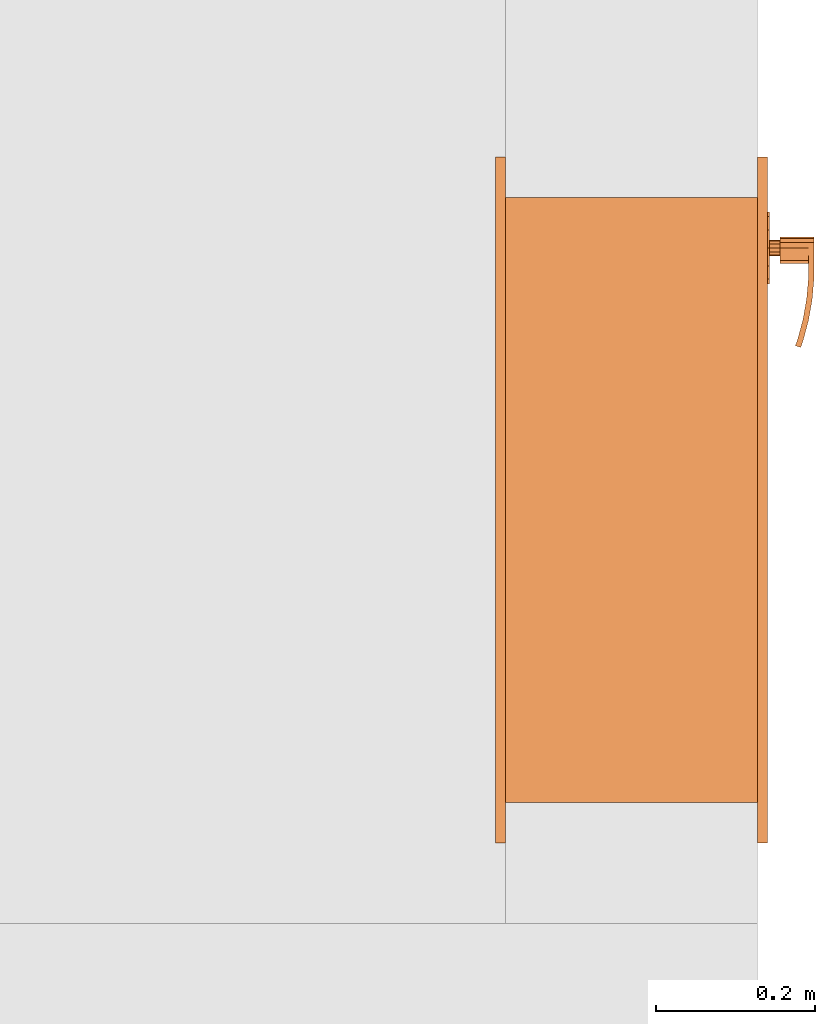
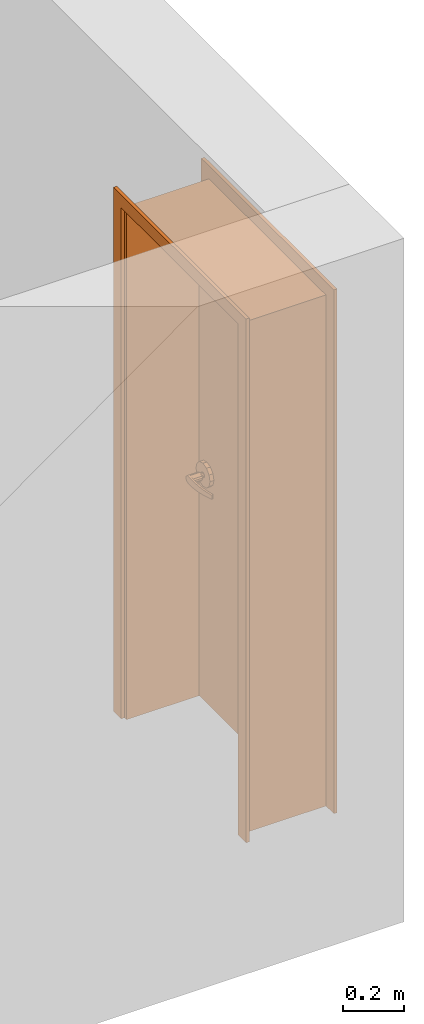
# One storey, part 47 of 48: 1 proxy.
"""IFC2X3 building model written with IfcOpenShell, lengths in inches."""

from ifc_helpers import new_model, entity, si_unit, converted_unit, derived_unit, money_unit, direction, frame, origin_with_axes, place, context, subcontext, project, spatial, open_shell, faceted_brep, surface_model, type_object, element, save


model = new_model("IFC2X3")

# Units and contexts
model_context = context("Model", 3, precision=0.00039370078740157, world=origin_with_axes(), true_north=direction((0.0, 1.0)))
plan_context = context("Plan", 3, precision=0.00039370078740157, world=origin_with_axes(), true_north=direction((0.0, 1.0)))
body_context = subcontext(model_context, "Body", "Model", "MODEL_VIEW")
ifc_project = project(units=[converted_unit("LENGTHUNIT", "INCH", entity("IfcPositiveLengthMeasure", 0.0254), si_unit("LENGTHUNIT", "METRE"), dimensions=[1, 0, 0, 0, 0, 0, 0]), converted_unit("AREAUNIT", "SQUARE_FOOT", entity("IfcPositiveLengthMeasure", 0.09290304), si_unit("AREAUNIT", "SQUARE_METRE"), dimensions=[2, 0, 0, 0, 0, 0, 0]), si_unit("PLANEANGLEUNIT", "RADIAN"), si_unit("SOLIDANGLEUNIT", "STERADIAN"), money_unit("USD"), converted_unit("TIMEUNIT", "Year", entity("IfcTimeMeasure", 31557600.0), si_unit("TIMEUNIT", "SECOND"), dimensions=[0, 0, 1, 0, 0, 0, 0]), si_unit("MASSUNIT", "GRAM", prefix="KILO"), si_unit("THERMODYNAMICTEMPERATUREUNIT", "DEGREE_CELSIUS"), si_unit("LUMINOUSINTENSITYUNIT", "LUMEN"), si_unit("ENERGYUNIT", "JOULE", prefix="MEGA"), derived_unit("SPECIFICHEATCAPACITYUNIT", [(si_unit("ENERGYUNIT", "JOULE"), 1), (si_unit("MASSUNIT", "GRAM", prefix="KILO"), -1), (si_unit("THERMODYNAMICTEMPERATUREUNIT", "KELVIN"), -1)])], contexts=[model_context, plan_context])

# Site, building, storey
site_placement = place(None, origin_with_axes())
site = spatial("IfcSite", under=ifc_project, at=site_placement, Name="Site", CompositionType="ELEMENT")
building_placement = place(site_placement, origin_with_axes())
building = spatial("IfcBuilding", under=site, at=building_placement, Name="Building", CompositionType="ELEMENT")
storey_placement = place(building_placement, origin_with_axes())
storey = spatial("IfcBuildingStorey", under=building, at=storey_placement, Name="First Floor", CompositionType="ELEMENT", Elevation=0.0)

# Proxy
building_element_proxy_type = type_object("IfcBuildingElementProxyType", Name="D1", PredefinedType="NOTDEFINED")
proxy_placement = place(storey_placement, frame((415.4999999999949, 50.00000000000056, 0.0), z_axis=(0.0, 0.0, 1.0), x_axis=(0.0, -1.0, 0.0)))
element("IfcBuildingElementProxy", 1, at=proxy_placement, inside=storey, type_object=building_element_proxy_type, Name="D-05", context=body_context, shape_type="SurfaceModel", body=[
    faceted_brep([(0.0, 7.99999999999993, 0.0), (0.4999999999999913, 7.99999999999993, 0.0), (0.4999999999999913, 0.0, 0.0), (0.0, 0.0, 0.0), (0.0, 7.99999999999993, 79.99999999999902), (0.4999999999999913, 7.99999999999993, 79.49999999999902), (0.4999999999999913, 0.0, 79.49999999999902), (0.0, 0.0, 79.99999999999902)], [[[0, 1, 2, 3]], [[0, 4, 5, 1]], [[1, 5, 6, 2]], [[3, 2, 6, 7]], [[4, 0, 3, 7]], [[5, 4, 7, 6]]]),
    faceted_brep([(29.99999999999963, 7.99999999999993, 79.99999999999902), (29.49999999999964, 7.99999999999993, 79.49999999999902), (29.49999999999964, 0.0, 79.49999999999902), (29.99999999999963, 0.0, 79.99999999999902), (29.99999999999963, 7.99999999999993, 0.0), (29.49999999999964, 7.99999999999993, 0.0), (29.49999999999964, 0.0, 0.0), (29.99999999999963, 0.0, 0.0)], [[[0, 1, 2, 3]], [[0, 4, 5, 1]], [[1, 5, 6, 2]], [[3, 2, 6, 7]], [[4, 0, 3, 7]], [[5, 4, 7, 6]]]),
    faceted_brep([(0.4999999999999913, 7.99999999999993, 79.49999999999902), (29.49999999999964, 7.99999999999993, 79.49999999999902), (29.49999999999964, 0.0, 79.49999999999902), (0.4999999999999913, 0.0, 79.49999999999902), (0.0, 7.99999999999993, 79.99999999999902), (29.99999999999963, 7.99999999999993, 79.99999999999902), (29.99999999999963, 0.0, 79.99999999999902), (0.0, 0.0, 79.99999999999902)], [[[0, 1, 2, 3]], [[0, 4, 5, 1]], [[1, 5, 6, 2]], [[3, 2, 6, 7]], [[4, 0, 3, 7]], [[5, 4, 7, 6]]]),
    faceted_brep([(-1.999999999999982, -0.4999999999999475, 0.0), (-1.999999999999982, 0.0, 0.0), (0.0, 0.0, 0.0), (0.0, -0.4999999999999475, 0.0), (-1.999999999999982, -0.4999999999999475, 81.999999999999), (-1.999999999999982, 0.0, 81.999999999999), (0.0, 0.0, 79.99999999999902), (0.0, -0.4999999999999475, 79.99999999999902)], [[[0, 1, 2, 3]], [[4, 5, 1, 0]], [[1, 5, 6, 2]], [[3, 2, 6, 7]], [[0, 3, 7, 4]], [[7, 6, 5, 4]]]),
    faceted_brep([(31.99999999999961, -0.4999999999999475, 81.999999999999), (31.99999999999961, 0.0, 81.999999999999), (29.99999999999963, 0.0, 79.99999999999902), (29.99999999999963, -0.4999999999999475, 79.99999999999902), (31.99999999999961, -0.4999999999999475, 0.0), (31.99999999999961, 0.0, 0.0), (29.99999999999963, 0.0, 0.0), (29.99999999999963, -0.4999999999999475, 0.0)], [[[0, 1, 2, 3]], [[4, 5, 1, 0]], [[1, 5, 6, 2]], [[3, 2, 6, 7]], [[0, 3, 7, 4]], [[7, 6, 5, 4]]]),
    faceted_brep([(-1.999999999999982, -0.4999999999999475, 81.999999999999), (-1.999999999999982, 0.0, 81.999999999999), (0.0, 0.0, 79.99999999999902), (0.0, -0.4999999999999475, 79.99999999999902), (31.99999999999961, -0.4999999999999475, 81.999999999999), (31.99999999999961, 0.0, 81.999999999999), (29.99999999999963, 0.0, 79.99999999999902), (29.99999999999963, -0.4999999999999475, 79.99999999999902)], [[[0, 1, 2, 3]], [[4, 5, 1, 0]], [[1, 5, 6, 2]], [[3, 2, 6, 7]], [[0, 3, 7, 4]], [[7, 6, 5, 4]]]),
    faceted_brep([(-1.999999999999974, 12.9999999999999, 0.0), (0.0, 12.9999999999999, 0.0), (0.0, 12.49999999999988, 0.0), (-1.999999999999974, 12.49999999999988, 0.0), (-1.999999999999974, 12.99999999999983, 81.999999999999), (0.0, 12.99999999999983, 79.99999999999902), (0.0, 12.49999999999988, 79.99999999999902), (-1.999999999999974, 12.49999999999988, 81.999999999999)], [[[0, 1, 2, 3]], [[0, 4, 5, 1]], [[1, 5, 6, 2]], [[3, 2, 6, 7]], [[4, 0, 3, 7]], [[5, 4, 7, 6]]]),
    faceted_brep([(31.99999999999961, 12.99999999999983, 81.999999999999), (29.99999999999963, 12.99999999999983, 79.99999999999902), (29.99999999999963, 12.49999999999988, 79.99999999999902), (31.99999999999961, 12.49999999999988, 81.999999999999), (31.99999999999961, 12.9999999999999, 0.0), (29.99999999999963, 12.9999999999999, 0.0), (29.99999999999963, 12.49999999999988, 0.0), (31.99999999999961, 12.49999999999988, 0.0)], [[[0, 1, 2, 3]], [[0, 4, 5, 1]], [[1, 5, 6, 2]], [[3, 2, 6, 7]], [[4, 0, 3, 7]], [[5, 4, 7, 6]]]),
    faceted_brep([(-1.999999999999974, 12.99999999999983, 81.999999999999), (0.0, 12.99999999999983, 79.99999999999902), (0.0, 12.49999999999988, 79.99999999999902), (-1.999999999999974, 12.49999999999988, 81.999999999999), (31.99999999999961, 12.99999999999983, 81.999999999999), (29.99999999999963, 12.99999999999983, 79.99999999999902), (29.99999999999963, 12.49999999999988, 79.99999999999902), (31.99999999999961, 12.49999999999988, 81.999999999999)], [[[0, 1, 2, 3]], [[0, 4, 5, 1]], [[1, 5, 6, 2]], [[3, 2, 6, 7]], [[4, 0, 3, 7]], [[5, 4, 7, 6]]]),
    faceted_brep([(0.0, 12.49999999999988, 0.0), (0.4999999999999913, 12.49999999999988, 0.0), (0.4999999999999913, 7.99999999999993, 0.0), (0.0, 7.99999999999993, 0.0), (0.0, 12.49999999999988, 79.49999999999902), (0.4999999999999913, 12.49999999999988, 79.49999999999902), (0.4999999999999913, 7.99999999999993, 79.49999999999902), (0.0, 7.99999999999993, 79.49999999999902)], [[[0, 1, 2, 3]], [[0, 4, 5, 1]], [[1, 5, 6, 2]], [[3, 2, 6, 7]], [[4, 0, 3, 7]], [[5, 4, 7, 6]]]),
    faceted_brep([(29.99999999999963, 12.49999999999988, 0.0), (29.99999999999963, 12.49999999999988, 79.49999999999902), (29.99999999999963, 7.99999999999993, 79.49999999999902), (29.99999999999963, 7.99999999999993, 0.0), (29.49999999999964, 12.49999999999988, 0.0), (29.49999999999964, 12.49999999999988, 79.49999999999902), (29.49999999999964, 7.99999999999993, 79.49999999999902), (29.49999999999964, 7.99999999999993, 0.0)], [[[0, 1, 2, 3]], [[0, 4, 5, 1]], [[1, 5, 6, 2]], [[3, 2, 6, 7]], [[4, 0, 3, 7]], [[5, 4, 7, 6]]]),
    faceted_brep([(0.0, 12.49999999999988, 79.99999999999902), (0.0, 12.49999999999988, 79.49999999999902), (0.0, 7.99999999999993, 79.49999999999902), (0.0, 7.99999999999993, 79.99999999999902), (29.99999999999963, 12.49999999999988, 79.99999999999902), (29.99999999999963, 12.49999999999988, 79.49999999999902), (29.49999999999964, 12.49999999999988, 79.49999999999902), (0.4999999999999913, 12.49999999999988, 79.49999999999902), (0.4999999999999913, 7.99999999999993, 79.49999999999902), (29.49999999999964, 7.99999999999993, 79.49999999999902), (29.99999999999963, 7.99999999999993, 79.49999999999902), (29.99999999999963, 7.99999999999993, 79.99999999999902)], [[[0, 1, 2, 3]], [[0, 4, 5, 6, 7, 1]], [[1, 7, 8, 2]], [[3, 2, 8, 9, 10, 11]], [[4, 0, 3, 11]], [[5, 4, 11, 10]], [[6, 5, 10, 9]], [[7, 6, 9, 8]]]),
    surface_model("IfcShellBasedSurfaceModel", [(4.051344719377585, 10.15944881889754, 36.89566929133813), (4.291338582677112, 10.15944881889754, 35.99999999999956), (4.291338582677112, 10.16338582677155, 35.99999999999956), (4.051344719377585, 10.16338582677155, 36.89566929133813), (3.395669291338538, 10.15944881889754, 37.55134471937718), (2.499999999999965, 10.15944881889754, 37.7913385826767), (1.6043307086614, 10.15944881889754, 37.55134471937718), (0.9486552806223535, 10.15944881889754, 36.89566929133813), (0.7086614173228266, 10.15944881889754, 35.99999999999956), (0.9486552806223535, 10.15944881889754, 35.10433070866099), (1.6043307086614, 10.15944881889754, 34.44865528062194), (2.499999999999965, 10.15944881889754, 34.20866141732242), (3.395669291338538, 10.15944881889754, 34.44865528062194), (4.051344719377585, 10.15944881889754, 35.10433070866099), (4.051344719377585, 10.16338582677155, 35.10433070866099), (4.291338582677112, 10.74606299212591, 35.99999999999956), (4.051344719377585, 10.74606299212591, 36.89566929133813), (3.395669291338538, 10.16338582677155, 37.55134471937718), (2.499999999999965, 10.16338582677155, 37.7913385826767), (1.6043307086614, 10.16338582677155, 37.55134471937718), (0.9486552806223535, 10.16338582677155, 36.89566929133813), (0.7086614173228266, 10.16338582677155, 35.99999999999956), (0.9486552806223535, 10.16338582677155, 35.10433070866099), (1.6043307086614, 10.16338582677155, 34.44865528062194), (2.499999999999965, 10.16338582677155, 34.20866141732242), (3.395669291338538, 10.16338582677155, 34.44865528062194), (4.051344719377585, 10.74606299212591, 35.10433070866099), (4.291338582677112, 10.74999999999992, 35.99999999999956), (4.051344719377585, 10.74999999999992, 36.89566929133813), (3.395669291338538, 10.74606299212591, 37.55134471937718), (2.499999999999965, 10.74606299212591, 37.7913385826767), (1.6043307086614, 10.74606299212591, 37.55134471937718), (0.9486552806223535, 10.74606299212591, 36.89566929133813), (0.7086614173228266, 10.74606299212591, 35.99999999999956), (0.9486552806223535, 10.74606299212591, 35.10433070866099), (1.6043307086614, 10.74606299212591, 34.44865528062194), (2.499999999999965, 10.74606299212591, 34.20866141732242), (3.395669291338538, 10.74606299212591, 34.44865528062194), (4.051344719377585, 10.74999999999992, 35.10433070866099), (3.395669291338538, 10.74999999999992, 37.55134471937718), (2.499999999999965, 10.74999999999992, 37.7913385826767), (1.6043307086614, 10.74999999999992, 37.55134471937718), (0.9486552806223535, 10.74999999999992, 36.89566929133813), (0.7086614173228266, 10.74999999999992, 35.99999999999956), (0.9486552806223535, 10.74999999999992, 35.10433070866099), (1.6043307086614, 10.74999999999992, 34.44865528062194), (2.499999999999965, 10.74999999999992, 34.20866141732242), (3.395669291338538, 10.74999999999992, 34.44865528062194)], [open_shell([[[0, 1, 2, 3]], [[1, 0, 4, 5, 6, 7, 8, 9, 10, 11, 12, 13]], [[1, 13, 14, 2]], [[3, 2, 15, 16]], [[4, 0, 3, 17]], [[5, 4, 17, 18]], [[6, 5, 18, 19]], [[7, 6, 19, 20]], [[8, 7, 20, 21]], [[9, 8, 21, 22]], [[10, 9, 22, 23]], [[11, 10, 23, 24]], [[12, 11, 24, 25]], [[13, 12, 25, 14]], [[2, 14, 26, 15]], [[16, 15, 27, 28]], [[17, 3, 16, 29]], [[18, 17, 29, 30]], [[19, 18, 30, 31]], [[20, 19, 31, 32]], [[21, 20, 32, 33]], [[22, 21, 33, 34]], [[23, 22, 34, 35]], [[24, 23, 35, 36]], [[25, 24, 36, 37]], [[14, 25, 37, 26]], [[15, 26, 38, 27]], [[29, 16, 28, 39]], [[30, 29, 39, 40]], [[31, 30, 40, 41]], [[32, 31, 41, 42]], [[33, 32, 42, 43]], [[34, 33, 43, 44]], [[35, 34, 44, 45]], [[36, 35, 45, 46]], [[37, 36, 46, 47]], [[26, 37, 47, 38]]])]),
    faceted_brep([(2.303149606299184, 10.15944881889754, 35.65904511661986), (2.159045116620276, 10.15944881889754, 35.80314960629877), (2.106299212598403, 10.15944881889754, 35.99999999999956), (2.159045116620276, 10.15944881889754, 36.19685039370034), (2.303149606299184, 10.15944881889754, 36.34095488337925), (2.499999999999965, 10.15944881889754, 36.39370078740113), (2.696850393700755, 10.15944881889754, 36.34095488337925), (2.840954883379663, 10.15944881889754, 36.19685039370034), (2.893700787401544, 10.15944881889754, 35.99999999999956), (2.840954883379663, 10.15944881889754, 35.80314960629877), (2.696850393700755, 10.15944881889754, 35.65904511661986), (2.499999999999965, 10.15944881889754, 35.60629921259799), (2.303149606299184, 9.647637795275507, 35.65904511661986), (2.159045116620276, 9.647637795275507, 35.80314960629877), (2.106299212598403, 9.647637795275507, 35.99999999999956), (2.159045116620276, 9.647637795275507, 36.19685039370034), (2.303149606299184, 9.647637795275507, 36.34095488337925), (2.499999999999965, 9.647637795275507, 36.39370078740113), (2.696850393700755, 9.647637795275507, 36.34095488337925), (2.840954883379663, 9.647637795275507, 36.19685039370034), (2.893700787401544, 9.647637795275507, 35.99999999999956), (2.840954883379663, 9.647637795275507, 35.80314960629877), (2.696850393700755, 9.647637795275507, 35.65904511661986), (2.499999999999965, 9.647637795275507, 35.60629921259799)], [[[0, 1, 2, 3, 4, 5, 6, 7, 8, 9, 10, 11]], [[1, 0, 12, 13]], [[2, 1, 13, 14]], [[3, 2, 14, 15]], [[4, 3, 15, 16]], [[5, 4, 16, 17]], [[6, 5, 17, 18]], [[7, 6, 18, 19]], [[8, 7, 19, 20]], [[9, 8, 20, 21]], [[10, 9, 21, 22]], [[11, 10, 22, 23]], [[0, 11, 23, 12]], [[12, 23, 22, 21, 20, 19, 18, 17, 16, 15, 14, 13]]]),
    faceted_brep([(2.499999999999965, 9.647637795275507, 36.55118110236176), (2.22440944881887, 9.647637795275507, 36.47733683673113), (2.22440944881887, 8.23031496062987, 36.47733683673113), (2.499999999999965, 8.23031496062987, 36.55118110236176), (2.893700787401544, 9.647637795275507, 36.47244094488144), (3.126478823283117, 9.647637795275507, 36.35358914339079), (3.262948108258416, 9.647637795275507, 36.13068221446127), (3.262948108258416, 9.647637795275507, 35.86931778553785), (3.126478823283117, 9.647637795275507, 35.64641085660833), (2.893700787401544, 9.647637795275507, 35.52755905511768), (2.499999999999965, 9.647637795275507, 35.44881889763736), (2.22440944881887, 9.647637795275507, 35.52266316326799), (2.022663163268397, 9.647637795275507, 35.72440944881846), (1.948818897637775, 9.647637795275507, 35.99999999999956), (2.022663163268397, 9.647637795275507, 36.27559055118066), (2.022663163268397, 8.23031496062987, 36.27559055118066), (1.948818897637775, 8.23031496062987, 35.99999999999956), (2.022663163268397, 8.23031496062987, 35.72440944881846), (2.22440944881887, 8.23031496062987, 35.52266316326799), (2.499999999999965, 8.23031496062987, 35.44881889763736), (2.893700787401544, 8.23031496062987, 35.52755905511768), (3.126478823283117, 8.23031496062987, 35.64641085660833), (3.262948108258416, 8.23031496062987, 35.86931778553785), (3.262948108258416, 8.23031496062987, 36.13068221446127), (3.126478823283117, 8.23031496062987, 36.35358914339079), (2.893700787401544, 8.23031496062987, 36.47244094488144)], [[[0, 1, 2, 3]], [[0, 4, 5, 6, 7, 8, 9, 10, 11, 12, 13, 14, 1]], [[1, 14, 15, 2]], [[3, 2, 15, 16, 17, 18, 19, 20, 21, 22, 23, 24, 25]], [[4, 0, 3, 25]], [[5, 4, 25, 24]], [[6, 5, 24, 23]], [[7, 6, 23, 22]], [[8, 7, 22, 21]], [[9, 8, 21, 20]], [[10, 9, 20, 19]], [[11, 10, 19, 18]], [[12, 11, 18, 17]], [[13, 12, 17, 16]], [[14, 13, 16, 15]]]),
    surface_model("IfcShellBasedSurfaceModel", [(2.499999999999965, 8.23031496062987, 36.55118110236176), (2.22440944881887, 8.23031496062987, 36.47733683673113), (2.22440944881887, 7.954724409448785, 36.47733683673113), (2.499999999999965, 7.954724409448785, 36.55118110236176), (3.484251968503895, 8.23031496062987, 36.55118110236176), (3.484251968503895, 8.23031496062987, 35.44881889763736), (2.499999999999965, 8.23031496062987, 35.44881889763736), (2.22440944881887, 8.23031496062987, 35.52266316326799), (2.022663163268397, 8.23031496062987, 35.72440944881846), (1.948818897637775, 8.23031496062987, 35.99999999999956), (2.022663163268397, 8.23031496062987, 36.27559055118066), (2.022663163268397, 7.954724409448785, 36.27559055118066), (1.948818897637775, 7.954724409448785, 35.99999999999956), (2.022663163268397, 7.954724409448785, 35.72440944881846), (2.22440944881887, 7.954724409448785, 35.52266316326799), (2.499999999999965, 7.954724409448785, 35.44881889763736), (3.484251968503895, 7.954724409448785, 35.44881889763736), (3.484251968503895, 7.954724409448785, 36.55118110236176)], [open_shell([[[0, 1, 2, 3]], [[0, 4, 5, 6, 7, 8, 9, 10, 1]], [[1, 10, 11, 2]], [[3, 2, 11, 12, 13, 14, 15, 16, 17]], [[4, 0, 3, 17]], [[6, 5, 16, 15]], [[7, 6, 15, 14]], [[8, 7, 14, 13]], [[9, 8, 13, 12]], [[10, 9, 12, 11]]])]),
    surface_model("IfcShellBasedSurfaceModel", [(3.484251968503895, 8.23031496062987, 35.44881889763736), (3.999932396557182, 8.23031496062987, 35.47974008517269), (4.011964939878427, 7.954724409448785, 35.47974008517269), (3.484251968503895, 8.23031496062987, 36.55118110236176), (3.999932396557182, 8.23031496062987, 36.52025991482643), (5.063374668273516, 8.046710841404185, 35.54158246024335), (3.484251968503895, 7.954724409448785, 35.44881889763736), (3.484251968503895, 7.954724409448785, 36.55118110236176), (5.027368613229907, 8.320203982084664, 36.45841753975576), (5.027368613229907, 8.320203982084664, 35.54158246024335), (5.063374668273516, 8.046710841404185, 36.45841753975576), (4.011964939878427, 7.954724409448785, 36.52025991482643), (6.043060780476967, 8.499297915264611, 36.3965751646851), (6.043060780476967, 8.499297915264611, 35.60342483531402), (6.102766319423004, 8.22998363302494, 35.60342483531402), (6.102766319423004, 8.22998363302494, 36.3965751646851), (7.039278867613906, 8.766233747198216, 36.33473278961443), (7.039278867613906, 8.766233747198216, 35.66526721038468), (7.122229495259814, 8.50314796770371, 35.66526721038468), (7.122229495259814, 8.50314796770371, 36.33473278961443), (7.349234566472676, 8.87904839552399, 36.31496062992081), (7.349234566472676, 8.87904839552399, 35.6850393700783), (7.439417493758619, 8.61859495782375, 35.6850393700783), (7.439417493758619, 8.61859495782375, 36.31496062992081)], [open_shell([[[0, 1, 2]], [[0, 3, 4, 1]], [[1, 5, 2]], [[0, 2, 6]], [[4, 3, 7]], [[1, 4, 8, 9]], [[1, 9, 5]], [[2, 5, 10, 11]], [[6, 2, 11, 7]], [[4, 7, 11]], [[8, 4, 11]], [[9, 8, 12, 13]], [[9, 14, 5]], [[5, 14, 15, 10]], [[8, 11, 10]], [[12, 8, 10]], [[13, 12, 16, 17]], [[9, 13, 14]], [[14, 18, 19, 15]], [[12, 10, 15]], [[16, 12, 15]], [[17, 16, 20, 21]], [[13, 17, 18]], [[13, 18, 14]], [[18, 22, 23, 19]], [[16, 15, 19]], [[20, 16, 19]], [[21, 20, 23, 22]], [[17, 21, 22]], [[17, 22, 18]], [[20, 19, 23]]])]),
    surface_model("IfcShellBasedSurfaceModel", [(4.051344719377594, 13.09055118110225, 36.89566929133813), (4.051344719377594, 13.08661417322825, 36.89566929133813), (4.291338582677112, 13.08661417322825, 35.99999999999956), (4.291338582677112, 13.09055118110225, 35.99999999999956), (3.395669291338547, 13.09055118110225, 37.55134471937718), (3.395669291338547, 13.08661417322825, 37.55134471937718), (4.051344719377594, 12.50393700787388, 36.89566929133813), (4.291338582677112, 12.50393700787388, 35.99999999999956), (4.051344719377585, 13.08661417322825, 35.10433070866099), (4.051344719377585, 13.09055118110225, 35.10433070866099), (3.395669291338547, 13.09055118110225, 34.44865528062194), (2.499999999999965, 13.09055118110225, 34.20866141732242), (1.6043307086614, 13.09055118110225, 34.44865528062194), (0.9486552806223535, 13.09055118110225, 35.10433070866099), (0.7086614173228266, 13.09055118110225, 35.99999999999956), (0.9486552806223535, 13.09055118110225, 36.89566929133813), (1.6043307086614, 13.09055118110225, 37.55134471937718), (2.499999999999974, 13.09055118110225, 37.7913385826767), (2.499999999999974, 13.08661417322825, 37.7913385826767), (3.395669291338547, 12.50393700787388, 37.55134471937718), (4.051344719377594, 12.49999999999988, 36.89566929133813), (4.291338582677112, 12.49999999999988, 35.99999999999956), (4.051344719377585, 12.50393700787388, 35.10433070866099), (3.395669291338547, 13.08661417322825, 34.44865528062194), (2.499999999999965, 13.08661417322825, 34.20866141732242), (1.6043307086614, 13.08661417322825, 34.44865528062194), (0.9486552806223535, 13.08661417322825, 35.10433070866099), (0.7086614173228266, 13.08661417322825, 35.99999999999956), (0.9486552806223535, 13.08661417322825, 36.89566929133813), (1.6043307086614, 13.08661417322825, 37.55134471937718), (2.499999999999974, 12.50393700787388, 37.7913385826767), (3.395669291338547, 12.49999999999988, 37.55134471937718), (4.051344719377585, 12.49999999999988, 35.10433070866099), (3.395669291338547, 12.50393700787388, 34.44865528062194), (2.499999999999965, 12.50393700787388, 34.20866141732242), (1.6043307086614, 12.50393700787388, 34.44865528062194), (0.9486552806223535, 12.50393700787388, 35.10433070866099), (0.7086614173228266, 12.50393700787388, 35.99999999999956), (0.9486552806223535, 12.50393700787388, 36.89566929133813), (1.6043307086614, 12.50393700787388, 37.55134471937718), (2.499999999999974, 12.49999999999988, 37.7913385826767), (3.395669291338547, 12.49999999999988, 34.44865528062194), (2.499999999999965, 12.49999999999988, 34.20866141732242), (1.6043307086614, 12.49999999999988, 34.44865528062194), (0.9486552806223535, 12.49999999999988, 35.10433070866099), (0.7086614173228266, 12.49999999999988, 35.99999999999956), (0.9486552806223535, 12.49999999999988, 36.89566929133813), (1.6043307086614, 12.49999999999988, 37.55134471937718)], [open_shell([[[0, 1, 2, 3]], [[4, 5, 1, 0]], [[1, 6, 7, 2]], [[3, 2, 8, 9]], [[3, 9, 10, 11, 12, 13, 14, 15, 16, 17, 4, 0]], [[17, 18, 5, 4]], [[5, 19, 6, 1]], [[6, 20, 21, 7]], [[2, 7, 22, 8]], [[9, 8, 23, 10]], [[10, 23, 24, 11]], [[11, 24, 25, 12]], [[12, 25, 26, 13]], [[13, 26, 27, 14]], [[14, 27, 28, 15]], [[15, 28, 29, 16]], [[16, 29, 18, 17]], [[18, 30, 19, 5]], [[19, 31, 20, 6]], [[7, 21, 32, 22]], [[8, 22, 33, 23]], [[23, 33, 34, 24]], [[24, 34, 35, 25]], [[25, 35, 36, 26]], [[26, 36, 37, 27]], [[27, 37, 38, 28]], [[28, 38, 39, 29]], [[29, 39, 30, 18]], [[30, 40, 31, 19]], [[22, 32, 41, 33]], [[33, 41, 42, 34]], [[34, 42, 43, 35]], [[35, 43, 44, 36]], [[36, 44, 45, 37]], [[37, 45, 46, 38]], [[38, 46, 47, 39]], [[39, 47, 40, 30]]])]),
    faceted_brep([(2.303149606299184, 13.09055118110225, 35.65904511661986), (2.499999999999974, 13.09055118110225, 35.60629921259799), (2.696850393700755, 13.09055118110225, 35.65904511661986), (2.840954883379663, 13.09055118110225, 35.80314960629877), (2.893700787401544, 13.09055118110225, 35.99999999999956), (2.840954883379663, 13.09055118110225, 36.19685039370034), (2.696850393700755, 13.09055118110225, 36.34095488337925), (2.499999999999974, 13.09055118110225, 36.39370078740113), (2.303149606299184, 13.09055118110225, 36.34095488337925), (2.159045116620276, 13.09055118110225, 36.19685039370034), (2.106299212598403, 13.09055118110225, 35.99999999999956), (2.159045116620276, 13.09055118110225, 35.80314960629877), (2.303149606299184, 13.60236220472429, 35.65904511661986), (2.499999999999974, 13.60236220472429, 35.60629921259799), (2.696850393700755, 13.60236220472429, 35.65904511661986), (2.840954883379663, 13.60236220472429, 35.80314960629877), (2.893700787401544, 13.60236220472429, 35.99999999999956), (2.840954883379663, 13.60236220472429, 36.19685039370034), (2.696850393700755, 13.60236220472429, 36.34095488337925), (2.499999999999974, 13.60236220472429, 36.39370078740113), (2.303149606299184, 13.60236220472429, 36.34095488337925), (2.159045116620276, 13.60236220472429, 36.19685039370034), (2.106299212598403, 13.60236220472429, 35.99999999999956), (2.159045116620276, 13.60236220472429, 35.80314960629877)], [[[0, 1, 2, 3, 4, 5, 6, 7, 8, 9, 10, 11]], [[0, 12, 13, 1]], [[1, 13, 14, 2]], [[2, 14, 15, 3]], [[3, 15, 16, 4]], [[4, 16, 17, 5]], [[5, 17, 18, 6]], [[6, 18, 19, 7]], [[7, 19, 20, 8]], [[8, 20, 21, 9]], [[9, 21, 22, 10]], [[10, 22, 23, 11]], [[11, 23, 12, 0]], [[12, 23, 22, 21, 20, 19, 18, 17, 16, 15, 14, 13]]]),
    faceted_brep([(2.499999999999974, 13.60236220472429, 36.55118110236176), (2.499999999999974, 15.01968503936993, 36.55118110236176), (2.22440944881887, 15.01968503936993, 36.47733683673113), (2.22440944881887, 13.60236220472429, 36.47733683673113), (2.893700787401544, 13.60236220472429, 36.47244094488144), (2.893700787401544, 15.01968503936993, 36.47244094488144), (3.126478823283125, 15.01968503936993, 36.35358914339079), (3.262948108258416, 15.01968503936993, 36.13068221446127), (3.262948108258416, 15.01968503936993, 35.86931778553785), (3.126478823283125, 15.01968503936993, 35.64641085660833), (2.893700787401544, 15.01968503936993, 35.52755905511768), (2.499999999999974, 15.01968503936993, 35.44881889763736), (2.22440944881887, 15.01968503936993, 35.52266316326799), (2.022663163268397, 15.01968503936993, 35.72440944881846), (1.948818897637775, 15.01968503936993, 35.99999999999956), (2.022663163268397, 15.01968503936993, 36.27559055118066), (2.022663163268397, 13.60236220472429, 36.27559055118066), (1.948818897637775, 13.60236220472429, 35.99999999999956), (2.022663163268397, 13.60236220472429, 35.72440944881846), (2.22440944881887, 13.60236220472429, 35.52266316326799), (2.499999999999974, 13.60236220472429, 35.44881889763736), (2.893700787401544, 13.60236220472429, 35.52755905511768), (3.126478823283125, 13.60236220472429, 35.64641085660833), (3.262948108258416, 13.60236220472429, 35.86931778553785), (3.262948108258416, 13.60236220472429, 36.13068221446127), (3.126478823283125, 13.60236220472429, 36.35358914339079)], [[[0, 1, 2, 3]], [[4, 5, 1, 0]], [[1, 5, 6, 7, 8, 9, 10, 11, 12, 13, 14, 15, 2]], [[3, 2, 15, 16]], [[0, 3, 16, 17, 18, 19, 20, 21, 22, 23, 24, 25, 4]], [[25, 6, 5, 4]], [[24, 7, 6, 25]], [[23, 8, 7, 24]], [[22, 9, 8, 23]], [[21, 10, 9, 22]], [[20, 11, 10, 21]], [[19, 12, 11, 20]], [[18, 13, 12, 19]], [[17, 14, 13, 18]], [[16, 15, 14, 17]]]),
    surface_model("IfcShellBasedSurfaceModel", [(2.499999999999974, 15.01968503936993, 36.55118110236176), (2.499999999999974, 15.29527559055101, 36.55118110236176), (2.22440944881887, 15.29527559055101, 36.47733683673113), (2.22440944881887, 15.01968503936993, 36.47733683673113), (3.484251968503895, 15.01968503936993, 36.55118110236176), (3.484251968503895, 15.29527559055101, 36.55118110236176), (3.484251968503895, 15.29527559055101, 35.44881889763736), (2.499999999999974, 15.29527559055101, 35.44881889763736), (2.22440944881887, 15.29527559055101, 35.52266316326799), (2.022663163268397, 15.29527559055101, 35.72440944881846), (1.948818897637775, 15.29527559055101, 35.99999999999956), (2.022663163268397, 15.29527559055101, 36.27559055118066), (2.022663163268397, 15.01968503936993, 36.27559055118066), (1.948818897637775, 15.01968503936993, 35.99999999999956), (2.022663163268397, 15.01968503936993, 35.72440944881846), (2.22440944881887, 15.01968503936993, 35.52266316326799), (2.499999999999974, 15.01968503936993, 35.44881889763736), (3.484251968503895, 15.01968503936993, 35.44881889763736)], [open_shell([[[0, 1, 2, 3]], [[4, 5, 1, 0]], [[1, 5, 6, 7, 8, 9, 10, 11, 2]], [[3, 2, 11, 12]], [[0, 3, 12, 13, 14, 15, 16, 17, 4]], [[16, 7, 6, 17]], [[15, 8, 7, 16]], [[14, 9, 8, 15]], [[13, 10, 9, 14]], [[12, 11, 10, 13]]])]),
    surface_model("IfcShellBasedSurfaceModel", [(3.484251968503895, 15.01968503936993, 35.44881889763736), (4.011964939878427, 15.29527559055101, 35.47974008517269), (3.999932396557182, 15.01968503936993, 35.47974008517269), (3.484251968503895, 15.29527559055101, 35.44881889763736), (5.063374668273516, 15.20328915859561, 35.54158246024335), (3.999932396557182, 15.01968503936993, 36.52025991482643), (3.484251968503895, 15.01968503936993, 36.55118110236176), (3.484251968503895, 15.29527559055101, 36.55118110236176), (4.011964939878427, 15.29527559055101, 36.52025991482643), (5.063374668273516, 15.20328915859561, 36.45841753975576), (5.027368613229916, 14.92979601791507, 35.54158246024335), (5.027368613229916, 14.92979601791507, 36.45841753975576), (6.102766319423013, 15.02001636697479, 36.3965751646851), (6.102766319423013, 15.02001636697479, 35.60342483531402), (6.043060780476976, 14.75070208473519, 35.60342483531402), (6.043060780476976, 14.75070208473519, 36.3965751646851), (7.122229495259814, 14.74685203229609, 36.33473278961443), (7.122229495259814, 14.74685203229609, 35.66526721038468), (7.039278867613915, 14.48376625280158, 35.66526721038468), (7.039278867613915, 14.48376625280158, 36.33473278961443), (7.439417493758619, 14.63140504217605, 36.31496062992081), (7.439417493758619, 14.63140504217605, 35.6850393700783), (7.349234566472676, 14.37095160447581, 35.6850393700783), (7.349234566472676, 14.37095160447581, 36.31496062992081)], [open_shell([[[0, 1, 2]], [[0, 3, 1]], [[2, 1, 4]], [[0, 2, 5, 6]], [[3, 7, 8, 1]], [[1, 8, 9, 4]], [[2, 4, 10]], [[2, 10, 11, 5]], [[5, 7, 6]], [[5, 8, 7]], [[11, 9, 8]], [[4, 9, 12, 13]], [[10, 4, 13]], [[10, 14, 15, 11]], [[11, 8, 5]], [[15, 9, 11]], [[15, 12, 9]], [[13, 12, 16, 17]], [[10, 13, 14]], [[14, 18, 19, 15]], [[19, 12, 15]], [[19, 16, 12]], [[17, 16, 20, 21]], [[14, 13, 17]], [[14, 17, 18]], [[18, 22, 23, 19]], [[23, 16, 19]], [[23, 20, 16]], [[22, 21, 20, 23]], [[18, 17, 21]], [[18, 21, 22]]])]),
    faceted_brep([(0.5393700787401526, 10.74999999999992, 0.03937007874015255), (29.46062992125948, 10.74999999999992, 0.03937007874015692), (29.46062992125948, 10.74999999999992, 79.46062992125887), (0.5393700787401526, 10.74999999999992, 79.46062992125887), (29.46062992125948, 12.49999999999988, 0.03937007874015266), (0.5393700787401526, 12.49999999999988, 0.03937007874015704), (29.46062992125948, 12.49999999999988, 79.46062992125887), (0.5393700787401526, 12.49999999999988, 79.46062992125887)], [[[0, 1, 2, 3]], [[4, 1, 0, 5]], [[1, 4, 6, 2]], [[2, 6, 7, 3]], [[5, 0, 3, 7]], [[4, 5, 7, 6]]]),
    faceted_brep([(29.49999999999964, 12.49999999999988, 0.0), (29.49999999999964, 10.74999999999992, 0.0), (0.4999999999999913, 10.74999999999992, 0.0), (0.4999999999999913, 12.49999999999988, 0.0), (29.49999999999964, 12.49999999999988, 79.49999999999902), (29.49999999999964, 10.74999999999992, 79.49999999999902), (0.4999999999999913, 10.74999999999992, 79.49999999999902), (29.46062992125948, 10.74999999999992, 0.03937007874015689), (0.5393700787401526, 10.74999999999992, 0.03937007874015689), (0.5393700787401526, 10.74999999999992, 79.46062992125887), (29.46062992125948, 10.74999999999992, 79.46062992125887), (0.4999999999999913, 12.49999999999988, 79.49999999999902), (29.46062992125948, 12.49999999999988, 0.039370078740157), (29.46062992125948, 12.49999999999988, 79.46062992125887), (0.5393700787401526, 12.49999999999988, 79.46062992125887), (0.5393700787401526, 12.49999999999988, 0.039370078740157)], [[[0, 1, 2, 3]], [[4, 5, 1, 0]], [[1, 5, 6, 2], [7, 8, 9, 10]], [[3, 2, 6, 11]], [[0, 3, 11, 4], [12, 13, 14, 15]], [[11, 6, 5, 4]], [[15, 8, 7, 12]], [[14, 9, 8, 15]], [[13, 10, 9, 14]], [[12, 7, 10, 13]]]),
])

save(model, "model.ifc")
